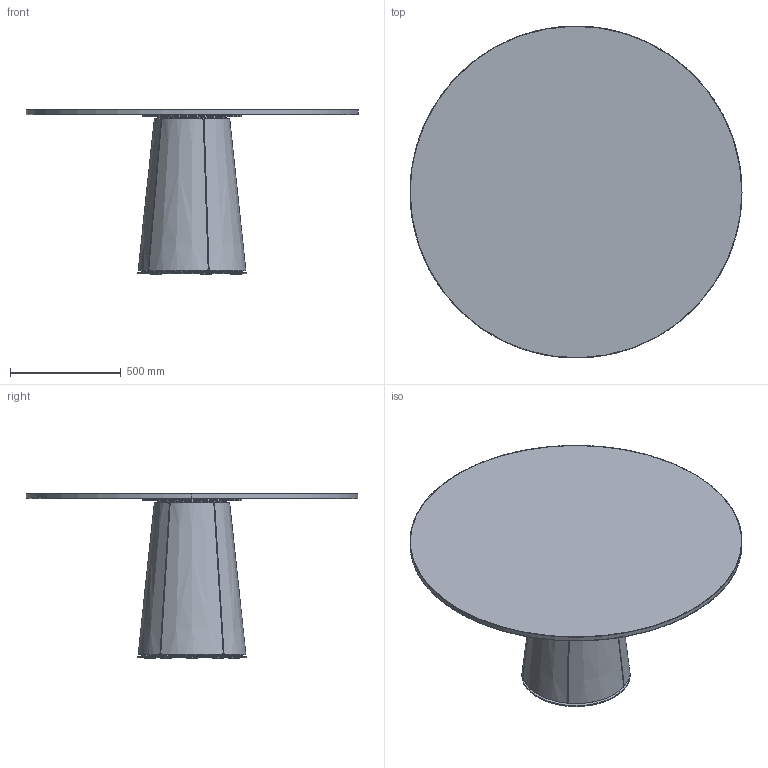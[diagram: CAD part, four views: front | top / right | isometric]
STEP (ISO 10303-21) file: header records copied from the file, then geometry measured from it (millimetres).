
FILE_DESCRIPTION(/* description */ (''),/* implementation_level */ '2;1');
FILE_NAME(/* name */ '20190222_BENT_dining table_150',/* time_stamp */ '2019-02-22T11:11:58+01:00',/* author */ (''),/* organization */ (''),/* preprocessor_version */ 'ST-DEVELOPER v15',/* originating_system */ '',/* authorisation */ '');
FILE_SCHEMA (('AUTOMOTIVE_DESIGN'));
Length unit declared in the file: millimetre
Products named in the file (1): Document
Bounding box: 1500 x 1499.46 x 744 mm (x, y, z)
Volume: 66318224.9 mm3; surface area: 7406918.7 mm2
Topology: 27 solids, 27 shells, 212 faces, 445 edges, 297 vertices
Faces by surface type: bspline 113, plane 99
Entity records: 8504 total; most frequent: CARTESIAN_POINT 5546, ORIENTED_EDGE 890, EDGE_CURVE 445, VERTEX_POINT 297, EDGE_LOOP 232, B_SPLINE_CURVE_WITH_KNOTS 230, ADVANCED_FACE 212, FACE_OUTER_BOUND 212
